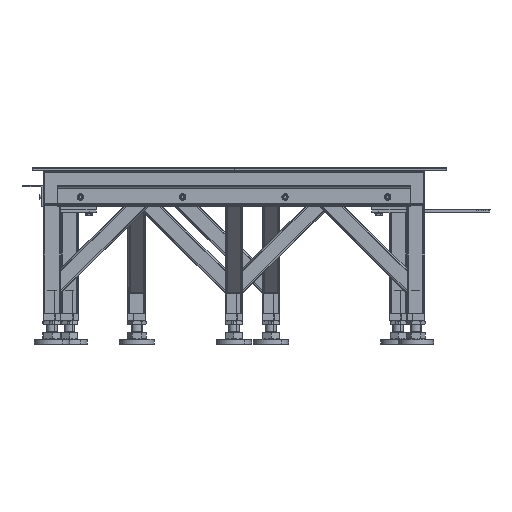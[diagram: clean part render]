
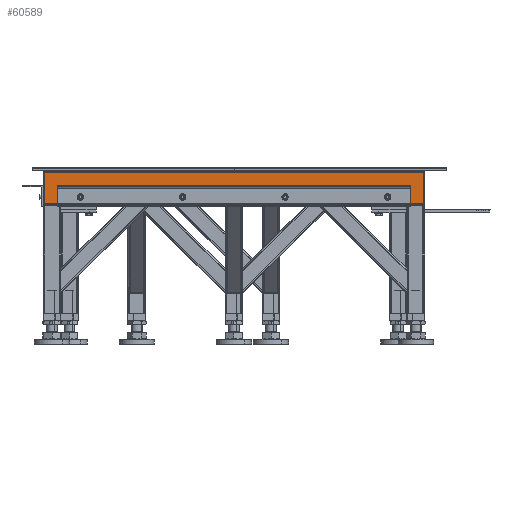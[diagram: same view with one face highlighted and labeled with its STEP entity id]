
A CAD part, left-side view. The second image highlights one B-rep face of the part: STEP entity #60589.
In plain terms, the highlighted planar face has unit normal (-1, 0, 0) as drawn and (1, 0, 0) by its records, which use the part's own axes.
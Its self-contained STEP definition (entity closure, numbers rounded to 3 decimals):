
#221 = VERTEX_POINT ( 'NONE', #5082 ) ;
#521 = ORIENTED_EDGE ( 'NONE', *, *, #27683, .F. ) ;
#659 = DIRECTION ( 'NONE',  ( 0., 0., 1. ) ) ;
#2195 = VECTOR ( 'NONE', #19038, 1000. ) ;
#2942 = CIRCLE ( 'NONE', #39728, 6. ) ;
#4644 = DIRECTION ( 'NONE',  ( 0., 0., 1. ) ) ;
#5082 = CARTESIAN_POINT ( 'NONE',  ( 51052., 6952.831, 6. ) ) ;
#5244 = ORIENTED_EDGE ( 'NONE', *, *, #25481, .T. ) ;
#5306 = CARTESIAN_POINT ( 'NONE',  ( 51052., 6952.831, 94. ) ) ;
#5963 = DIRECTION ( 'NONE',  ( 1., 0., 0. ) ) ;
#7246 = CIRCLE ( 'NONE', #76358, 6. ) ;
#7503 = EDGE_LOOP ( 'NONE', ( #16009, #33834 ) ) ;
#9713 = PLANE ( 'NONE',  #50950 ) ;
#9989 = CARTESIAN_POINT ( 'NONE',  ( 51052., 6267.831, 69.5 ) ) ;
#10601 = CARTESIAN_POINT ( 'NONE',  ( 51052., 5872.831, 6. ) ) ;
#10694 = ORIENTED_EDGE ( 'NONE', *, *, #38684, .T. ) ;
#12001 = DIRECTION ( 'NONE',  ( 0., 0., -1. ) ) ;
#12885 = ORIENTED_EDGE ( 'NONE', *, *, #47691, .F. ) ;
#13679 = CIRCLE ( 'NONE', #41271, 6. ) ;
#16009 = ORIENTED_EDGE ( 'NONE', *, *, #18879, .F. ) ;
#16185 = DIRECTION ( 'NONE',  ( 0., 0., -1. ) ) ;
#16665 = CARTESIAN_POINT ( 'NONE',  ( 51052., 6267.831, 81.5 ) ) ;
#18879 = EDGE_CURVE ( 'NONE', #26753, #78584, #43464, .T. ) ;
#18885 = VERTEX_POINT ( 'NONE', #9989 ) ;
#19038 = DIRECTION ( 'NONE',  ( 0., -1., 0. ) ) ;
#21024 = EDGE_CURVE ( 'NONE', #58257, #58932, #40110, .T. ) ;
#22778 = CARTESIAN_POINT ( 'NONE',  ( 51052., 5872.831, 94. ) ) ;
#23592 = DIRECTION ( 'NONE',  ( 1., 0., 0. ) ) ;
#23776 = ORIENTED_EDGE ( 'NONE', *, *, #67347, .F. ) ;
#24669 = VERTEX_POINT ( 'NONE', #72208 ) ;
#25481 = EDGE_CURVE ( 'NONE', #75500, #58257, #51021, .T. ) ;
#26753 = VERTEX_POINT ( 'NONE', #44106 ) ;
#26950 = CARTESIAN_POINT ( 'NONE',  ( 51052., 5977.831, 81.5 ) ) ;
#26952 = CARTESIAN_POINT ( 'NONE',  ( 51052., 6267.831, 75.5 ) ) ;
#27683 = EDGE_CURVE ( 'NONE', #24669, #48368, #7246, .T. ) ;
#27825 = EDGE_CURVE ( 'NONE', #48368, #24669, #64654, .T. ) ;
#29127 = DIRECTION ( 'NONE',  ( 1., 0., 0. ) ) ;
#29789 = DIRECTION ( 'NONE',  ( 0., 0., -1. ) ) ;
#31446 = VERTEX_POINT ( 'NONE', #51743 ) ;
#31546 = AXIS2_PLACEMENT_3D ( 'NONE', #72530, #29127, #78654 ) ;
#33834 = ORIENTED_EDGE ( 'NONE', *, *, #54279, .F. ) ;
#34075 = FACE_BOUND ( 'NONE', #36050, .T. ) ;
#34412 = EDGE_CURVE ( 'NONE', #31446, #66561, #66955, .T. ) ;
#34897 = DIRECTION ( 'NONE',  ( -1., 0., 0. ) ) ;
#35128 = CARTESIAN_POINT ( 'NONE',  ( 51052., 6847.831, 75.5 ) ) ;
#36050 = EDGE_LOOP ( 'NONE', ( #521, #63267 ) ) ;
#36221 = VECTOR ( 'NONE', #40389, 1000. ) ;
#37130 = ORIENTED_EDGE ( 'NONE', *, *, #53458, .F. ) ;
#37890 = AXIS2_PLACEMENT_3D ( 'NONE', #73980, #68054, #12001 ) ;
#38684 = EDGE_CURVE ( 'NONE', #221, #75500, #64991, .T. ) ;
#39728 = AXIS2_PLACEMENT_3D ( 'NONE', #64888, #46174, #46948 ) ;
#40110 = LINE ( 'NONE', #69881, #36221 ) ;
#40305 = LINE ( 'NONE', #45966, #46034 ) ;
#40389 = DIRECTION ( 'NONE',  ( 0., 0., -1. ) ) ;
#40854 = FACE_BOUND ( 'NONE', #44044, .T. ) ;
#41271 = AXIS2_PLACEMENT_3D ( 'NONE', #26952, #76484, #70619 ) ;
#41841 = FACE_BOUND ( 'NONE', #73581, .T. ) ;
#42643 = DIRECTION ( 'NONE',  ( 0., 0., -1. ) ) ;
#43464 = CIRCLE ( 'NONE', #75083, 6. ) ;
#44044 = EDGE_LOOP ( 'NONE', ( #79184, #12885 ) ) ;
#44106 = CARTESIAN_POINT ( 'NONE',  ( 51052., 5977.831, 69.5 ) ) ;
#45966 = CARTESIAN_POINT ( 'NONE',  ( 51052., 6927.831, 6. ) ) ;
#46034 = VECTOR ( 'NONE', #76517, 1000. ) ;
#46174 = DIRECTION ( 'NONE',  ( 1., 0., 0. ) ) ;
#46948 = DIRECTION ( 'NONE',  ( 0., 0., -1. ) ) ;
#47691 = EDGE_CURVE ( 'NONE', #66561, #31446, #2942, .T. ) ;
#47703 = ORIENTED_EDGE ( 'NONE', *, *, #69060, .F. ) ;
#47714 = CARTESIAN_POINT ( 'NONE',  ( 51052., 6847.831, 81.5 ) ) ;
#48368 = VERTEX_POINT ( 'NONE', #47714 ) ;
#48770 = CARTESIAN_POINT ( 'NONE',  ( 51052., 6557.831, 75.5 ) ) ;
#49317 = CARTESIAN_POINT ( 'NONE',  ( 51052., 6952.831, 6. ) ) ;
#50156 = AXIS2_PLACEMENT_3D ( 'NONE', #48770, #5963, #42643 ) ;
#50950 = AXIS2_PLACEMENT_3D ( 'NONE', #53596, #34897, #4644 ) ;
#51021 = LINE ( 'NONE', #68873, #2195 ) ;
#51743 = CARTESIAN_POINT ( 'NONE',  ( 51052., 6557.831, 69.5 ) ) ;
#52742 = CARTESIAN_POINT ( 'NONE',  ( 51052., 6267.831, 75.5 ) ) ;
#53458 = EDGE_CURVE ( 'NONE', #18885, #66864, #13679, .T. ) ;
#53596 = CARTESIAN_POINT ( 'NONE',  ( 51052., 6927.831, 6. ) ) ;
#53937 = DIRECTION ( 'NONE',  ( 0., 0., -1. ) ) ;
#54279 = EDGE_CURVE ( 'NONE', #78584, #26753, #69420, .T. ) ;
#55060 = EDGE_LOOP ( 'NONE', ( #5244, #63642, #47703, #10694 ) ) ;
#58257 = VERTEX_POINT ( 'NONE', #22778 ) ;
#58932 = VERTEX_POINT ( 'NONE', #10601 ) ;
#59052 = CARTESIAN_POINT ( 'NONE',  ( 51052., 5977.831, 75.5 ) ) ;
#59828 = CIRCLE ( 'NONE', #67183, 6. ) ;
#60589 = ADVANCED_FACE ( 'NONE', ( #34075, #40854, #41841, #61864, #79135 ), #9713, .F. ) ;
#61864 = FACE_BOUND ( 'NONE', #7503, .T. ) ;
#63267 = ORIENTED_EDGE ( 'NONE', *, *, #27825, .F. ) ;
#63642 = ORIENTED_EDGE ( 'NONE', *, *, #21024, .T. ) ;
#64654 = CIRCLE ( 'NONE', #37890, 6. ) ;
#64888 = CARTESIAN_POINT ( 'NONE',  ( 51052., 6557.831, 75.5 ) ) ;
#64917 = DIRECTION ( 'NONE',  ( 1., 0., 0. ) ) ;
#64991 = LINE ( 'NONE', #49317, #65979 ) ;
#65979 = VECTOR ( 'NONE', #659, 1000. ) ;
#66561 = VERTEX_POINT ( 'NONE', #67926 ) ;
#66864 = VERTEX_POINT ( 'NONE', #16665 ) ;
#66955 = CIRCLE ( 'NONE', #50156, 6. ) ;
#67183 = AXIS2_PLACEMENT_3D ( 'NONE', #52742, #67466, #53937 ) ;
#67347 = EDGE_CURVE ( 'NONE', #66864, #18885, #59828, .T. ) ;
#67466 = DIRECTION ( 'NONE',  ( 1., 0., 0. ) ) ;
#67926 = CARTESIAN_POINT ( 'NONE',  ( 51052., 6557.831, 81.5 ) ) ;
#68054 = DIRECTION ( 'NONE',  ( 1., 0., 0. ) ) ;
#68873 = CARTESIAN_POINT ( 'NONE',  ( 51052., 6927.831, 94. ) ) ;
#69060 = EDGE_CURVE ( 'NONE', #221, #58932, #40305, .T. ) ;
#69420 = CIRCLE ( 'NONE', #31546, 6. ) ;
#69881 = CARTESIAN_POINT ( 'NONE',  ( 51052., 5872.831, 6. ) ) ;
#70619 = DIRECTION ( 'NONE',  ( 0., 0., -1. ) ) ;
#72208 = CARTESIAN_POINT ( 'NONE',  ( 51052., 6847.831, 69.5 ) ) ;
#72530 = CARTESIAN_POINT ( 'NONE',  ( 51052., 5977.831, 75.5 ) ) ;
#73581 = EDGE_LOOP ( 'NONE', ( #37130, #23776 ) ) ;
#73980 = CARTESIAN_POINT ( 'NONE',  ( 51052., 6847.831, 75.5 ) ) ;
#75083 = AXIS2_PLACEMENT_3D ( 'NONE', #59052, #64917, #16185 ) ;
#75500 = VERTEX_POINT ( 'NONE', #5306 ) ;
#76358 = AXIS2_PLACEMENT_3D ( 'NONE', #35128, #23592, #29789 ) ;
#76484 = DIRECTION ( 'NONE',  ( 1., 0., 0. ) ) ;
#76517 = DIRECTION ( 'NONE',  ( 0., -1., 0. ) ) ;
#78584 = VERTEX_POINT ( 'NONE', #26950 ) ;
#78654 = DIRECTION ( 'NONE',  ( 0., 0., -1. ) ) ;
#79135 = FACE_OUTER_BOUND ( 'NONE', #55060, .T. ) ;
#79184 = ORIENTED_EDGE ( 'NONE', *, *, #34412, .F. ) ;
